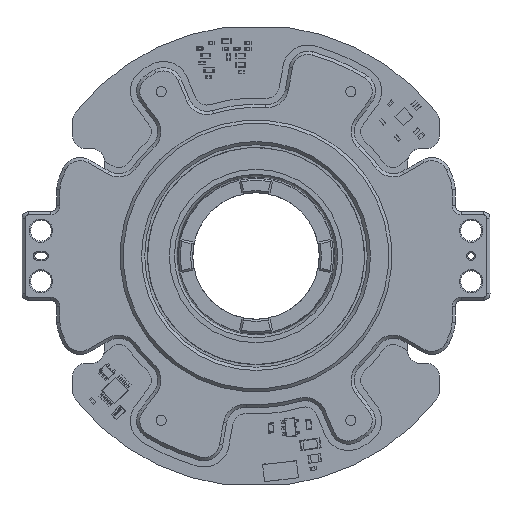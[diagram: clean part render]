
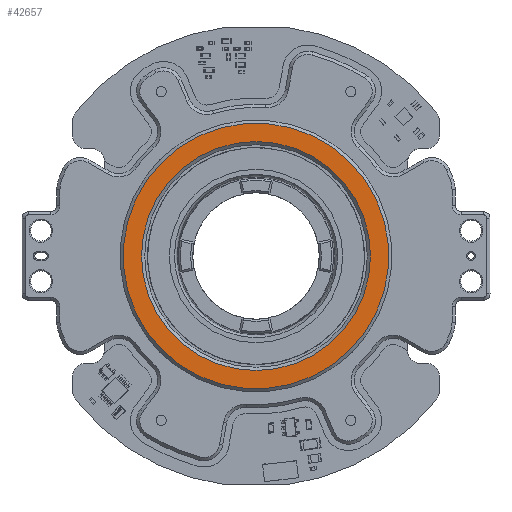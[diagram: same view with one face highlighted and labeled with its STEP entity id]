
A CAD part, front view. The second image highlights one B-rep face of the part: STEP entity #42657.
In plain terms, the highlighted planar face has unit normal (0, -1, 0).
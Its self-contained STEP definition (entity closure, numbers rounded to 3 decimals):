
#36606=PLANE('',#115268);
#42657=ADVANCED_FACE('',(#48959,#48960),#36606,.T.);
#48959=FACE_BOUND('',#49904,.T.);
#48960=FACE_BOUND('',#49905,.T.);
#49904=EDGE_LOOP('',(#58091));
#49905=EDGE_LOOP('',(#58092));
#58091=ORIENTED_EDGE('',*,*,#97629,.T.);
#58092=ORIENTED_EDGE('',*,*,#97630,.T.);
#87443=VERTEX_POINT('',#160278);
#87444=VERTEX_POINT('',#160280);
#97629=EDGE_CURVE('',#87443,#87443,#112224,.T.);
#97630=EDGE_CURVE('',#87444,#87444,#112225,.T.);
#112224=CIRCLE('',#115266,21.);
#112225=CIRCLE('',#115267,18.1);
#115266=AXIS2_PLACEMENT_3D('',#160277,#125714,#125715);
#115267=AXIS2_PLACEMENT_3D('',#160279,#125716,#125717);
#115268=AXIS2_PLACEMENT_3D('',#160281,#125718,#125719);
#125714=DIRECTION('',(0.,-1.,0.));
#125715=DIRECTION('',(0.707,0.,-0.707));
#125716=DIRECTION('',(0.,1.,0.));
#125717=DIRECTION('',(0.,0.,-1.));
#125718=DIRECTION('',(0.,-1.,0.));
#125719=DIRECTION('',(-0.707,0.,0.707));
#160277=CARTESIAN_POINT('',(0.,-7.5,0.));
#160278=CARTESIAN_POINT('',(14.849,-7.5,-14.849));
#160279=CARTESIAN_POINT('',(0.,-7.5,0.));
#160280=CARTESIAN_POINT('',(0.,-7.5,-18.1));
#160281=CARTESIAN_POINT('',(0.,-7.5,0.));
